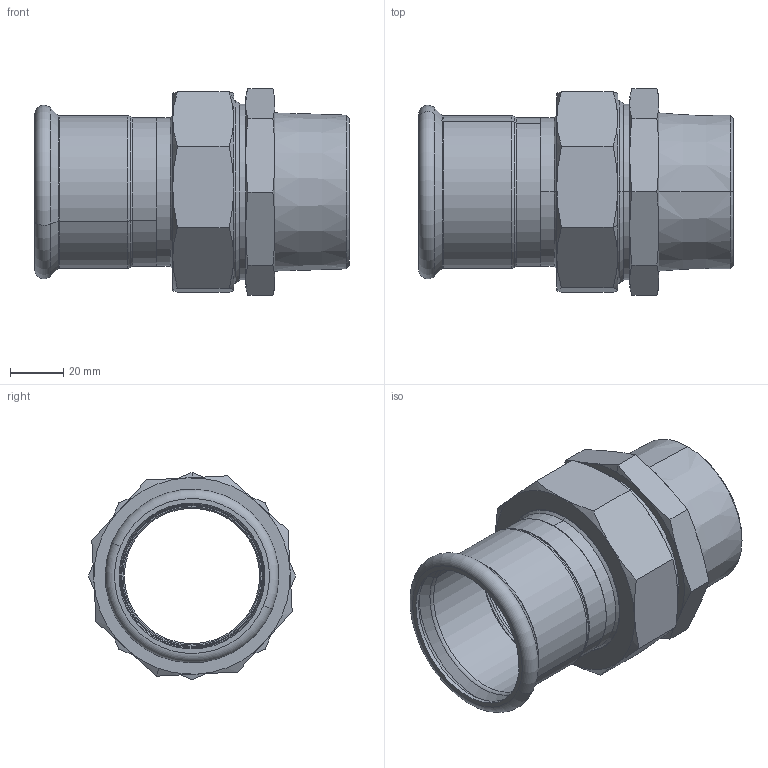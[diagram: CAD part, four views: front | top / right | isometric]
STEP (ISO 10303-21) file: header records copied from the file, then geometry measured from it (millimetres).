
FILE_DESCRIPTION (( 'STEP AP203' ), '1' );
FILE_NAME ('GDA5441.STEP', '2019-01-21T05:26:09', ( '' ), ( '' ), 'SwSTEP 2.0', 'SolidWorks 2015', '' );
FILE_SCHEMA (( 'CONFIG_CONTROL_DESIGN' ));
Length unit declared in the file: millimetre
Products named in the file (6): ZL-Ⅰ-01×2八分之三; 蛌遙諉芛2.4-2; T-ｉ-01-54; GDA5441; 2.3.8; 54×2八分之三
Assembly tree (5 placements, depth 2):
  GDA5441
    2.3.8
    54×2八分之三
    T-ｉ-01-54
    ZL-Ⅰ-01×2八分之三
    蛌遙諉芛2.4-2
Bounding box: 118.5 x 77.93 x 77.93 mm (x, y, z)
Volume: 121410.2 mm3; surface area: 67212.6 mm2
Topology: 5 solids, 5 shells, 140 faces, 292 edges, 168 vertices
Faces by surface type: cone 60, cylinder 32, plane 32, torus 16
Entity records: 4564 total; most frequent: CARTESIAN_POINT 960, DIRECTION 676, ORIENTED_EDGE 584, AXIS2_PLACEMENT_3D 300, EDGE_CURVE 292, VERTEX_POINT 168, EDGE_LOOP 156, CIRCLE 152
